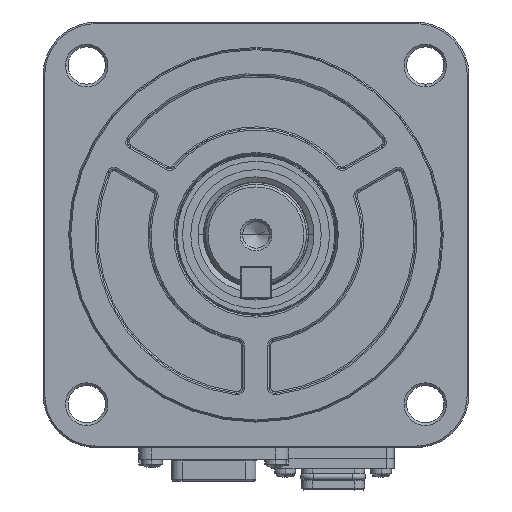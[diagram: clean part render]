
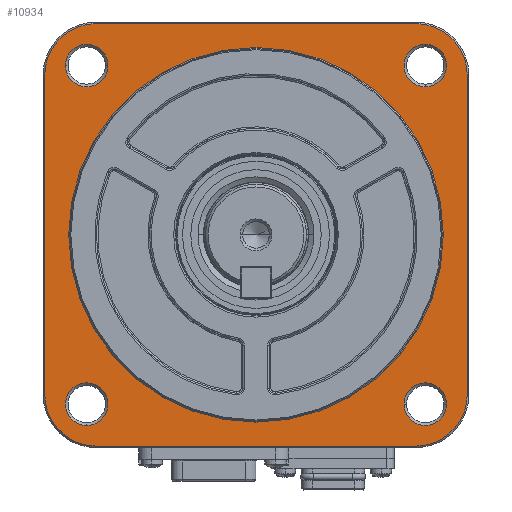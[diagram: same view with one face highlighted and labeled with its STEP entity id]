
A CAD part, left-side view. The second image highlights one B-rep face of the part: STEP entity #10934.
In plain terms, the highlighted planar face has unit normal (-1, 0, 0).
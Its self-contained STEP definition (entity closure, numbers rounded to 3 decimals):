
#1570=CARTESIAN_POINT('',(-1.5,30.,-30.));
#1571=DIRECTION('',(1.,0.,0.));
#1572=DIRECTION('',(0.,0.,-1.));
#1573=AXIS2_PLACEMENT_3D('',#1570,#1571,#1572);
#1575=DIRECTION('',(0.,0.,1.));
#1576=VECTOR('',#1575,60.);
#1577=CARTESIAN_POINT('',(-1.5,39.7,
-30.));
#1578=LINE('',#1577,#1576);
#1579=CARTESIAN_POINT('',(-1.5,30.,30.));
#1580=DIRECTION('',(1.,0.,0.));
#1581=DIRECTION('',(0.,1.,0.));
#1582=AXIS2_PLACEMENT_3D('',#1579,#1580,#1581);
#1584=DIRECTION('',(0.,-1.,0.));
#1585=VECTOR('',#1584,60.);
#1586=CARTESIAN_POINT('',(-1.5,30.,39.7));
#1587=LINE('',#1586,#1585);
#1588=CARTESIAN_POINT('',(-1.5,-30.,30.));
#1589=DIRECTION('',(1.,0.,0.));
#1590=DIRECTION('',(0.,0.,1.));
#1591=AXIS2_PLACEMENT_3D('',#1588,#1589,#1590);
#1593=DIRECTION('',(0.,0.,-1.));
#1594=VECTOR('',#1593,60.);
#1595=CARTESIAN_POINT('',(-1.5,-39.7,
30.));
#1596=LINE('',#1595,#1594);
#1597=CARTESIAN_POINT('',(-1.5,-30.,-30.));
#1598=DIRECTION('',(1.,0.,0.));
#1599=DIRECTION('',(0.,-1.,0.));
#1600=AXIS2_PLACEMENT_3D('',#1597,#1598,#1599);
#1602=DIRECTION('',(0.,1.,0.));
#1603=VECTOR('',#1602,60.);
#1604=CARTESIAN_POINT('',(-1.5,-30.,
-39.7));
#1605=LINE('',#1604,#1603);
#1606=CARTESIAN_POINT('',(-1.5,31.82,-31.82));
#1607=DIRECTION('',(-1.,0.,0.));
#1608=DIRECTION('',(0.,0.,1.));
#1609=AXIS2_PLACEMENT_3D('',#1606,#1607,#1608);
#1611=CARTESIAN_POINT('',(-1.5,31.82,-31.82));
#1612=DIRECTION('',(-1.,0.,0.));
#1613=DIRECTION('',(0.,0.,-1.));
#1614=AXIS2_PLACEMENT_3D('',#1611,#1612,#1613);
#1616=CARTESIAN_POINT('',(-1.5,-31.82,31.82));
#1617=DIRECTION('',(-1.,0.,0.));
#1618=DIRECTION('',(0.,0.,1.));
#1619=AXIS2_PLACEMENT_3D('',#1616,#1617,#1618);
#1621=CARTESIAN_POINT('',(-1.5,-31.82,31.82));
#1622=DIRECTION('',(-1.,0.,0.));
#1623=DIRECTION('',(0.,0.,-1.));
#1624=AXIS2_PLACEMENT_3D('',#1621,#1622,#1623);
#1626=CARTESIAN_POINT('',(-1.5,-31.82,-31.82));
#1627=DIRECTION('',(-1.,0.,0.));
#1628=DIRECTION('',(0.,1.,0.));
#1629=AXIS2_PLACEMENT_3D('',#1626,#1627,#1628);
#1631=CARTESIAN_POINT('',(-1.5,-31.82,-31.82));
#1632=DIRECTION('',(-1.,0.,0.));
#1633=DIRECTION('',(0.,0.,-1.));
#1634=AXIS2_PLACEMENT_3D('',#1631,#1632,#1633);
#1636=CARTESIAN_POINT('',(-1.5,-31.82,-31.82));
#1637=DIRECTION('',(-1.,0.,0.));
#1638=DIRECTION('',(0.,-1.,0.));
#1639=AXIS2_PLACEMENT_3D('',#1636,#1637,#1638);
#1641=CARTESIAN_POINT('',(-1.5,-31.82,-31.82));
#1642=DIRECTION('',(-1.,0.,0.));
#1643=DIRECTION('',(0.,0.,1.));
#1644=AXIS2_PLACEMENT_3D('',#1641,#1642,#1643);
#1646=CARTESIAN_POINT('',(-1.5,0.,0.));
#1647=DIRECTION('',(-1.,0.,0.));
#1648=DIRECTION('',(0.,-1.,0.));
#1649=AXIS2_PLACEMENT_3D('',#1646,#1647,#1648);
#1651=CARTESIAN_POINT('',(-1.5,0.,0.));
#1652=DIRECTION('',(-1.,0.,0.));
#1653=DIRECTION('',(0.,0.,1.));
#1654=AXIS2_PLACEMENT_3D('',#1651,#1652,#1653);
#1656=CARTESIAN_POINT('',(-1.5,0.,0.));
#1657=DIRECTION('',(-1.,0.,0.));
#1658=DIRECTION('',(0.,1.,0.));
#1659=AXIS2_PLACEMENT_3D('',#1656,#1657,#1658);
#1661=CARTESIAN_POINT('',(-1.5,0.,0.));
#1662=DIRECTION('',(-1.,0.,0.));
#1663=DIRECTION('',(0.,0.,-1.));
#1664=AXIS2_PLACEMENT_3D('',#1661,#1662,#1663);
#1666=CARTESIAN_POINT('',(-1.5,31.82,31.82));
#1667=DIRECTION('',(-1.,0.,0.));
#1668=DIRECTION('',(0.,1.,0.));
#1669=AXIS2_PLACEMENT_3D('',#1666,#1667,#1668);
#1671=CARTESIAN_POINT('',(-1.5,31.82,31.82));
#1672=DIRECTION('',(-1.,0.,0.));
#1673=DIRECTION('',(0.,0.,-1.));
#1674=AXIS2_PLACEMENT_3D('',#1671,#1672,#1673);
#1676=CARTESIAN_POINT('',(-1.5,31.82,31.82));
#1677=DIRECTION('',(-1.,0.,0.));
#1678=DIRECTION('',(0.,-1.,0.));
#1679=AXIS2_PLACEMENT_3D('',#1676,#1677,#1678);
#1681=CARTESIAN_POINT('',(-1.5,31.82,31.82));
#1682=DIRECTION('',(-1.,0.,0.));
#1683=DIRECTION('',(0.,0.,1.));
#1684=AXIS2_PLACEMENT_3D('',#1681,#1682,#1683);
#5166=CARTESIAN_POINT('',(-1.5,30.,39.7));
#5167=CARTESIAN_POINT('',(-1.5,-30.,
39.7));
#5168=VERTEX_POINT('',#5166);
#5169=VERTEX_POINT('',#5167);
#5170=CARTESIAN_POINT('',(-1.5,30.,-39.7));
#5171=CARTESIAN_POINT('',(-1.5,39.7,-30.));
#5172=VERTEX_POINT('',#5170);
#5173=VERTEX_POINT('',#5171);
#5174=CARTESIAN_POINT('',(-1.5,39.7,30.));
#5175=VERTEX_POINT('',#5174);
#5176=CARTESIAN_POINT('',(-1.5,-39.7,30.));
#5177=VERTEX_POINT('',#5176);
#5178=CARTESIAN_POINT('',(-1.5,-39.7,
-30.));
#5179=VERTEX_POINT('',#5178);
#5180=CARTESIAN_POINT('',(-1.5,-30.,-39.7));
#5181=VERTEX_POINT('',#5180);
#5182=CARTESIAN_POINT('',(-1.5,31.82,-27.82));
#5183=CARTESIAN_POINT('',(-1.5,31.82,-35.82));
#5184=VERTEX_POINT('',#5182);
#5185=VERTEX_POINT('',#5183);
#5186=CARTESIAN_POINT('',(-1.5,-31.82,35.82));
#5187=CARTESIAN_POINT('',(-1.5,-31.82,27.82));
#5188=VERTEX_POINT('',#5186);
#5189=VERTEX_POINT('',#5187);
#5190=CARTESIAN_POINT('',(-1.5,-31.82,-35.82));
#5191=CARTESIAN_POINT('',(-1.5,-35.82,-31.82));
#5192=VERTEX_POINT('',#5190);
#5193=VERTEX_POINT('',#5191);
#5194=CARTESIAN_POINT('',(-1.5,-27.82,-31.82));
#5195=VERTEX_POINT('',#5194);
#5196=CARTESIAN_POINT('',(-1.5,-31.82,-27.82));
#5197=VERTEX_POINT('',#5196);
#5198=CARTESIAN_POINT('',(-1.5,0.,35.2));
#5199=CARTESIAN_POINT('',(-1.5,35.2,0.));
#5200=VERTEX_POINT('',#5198);
#5201=VERTEX_POINT('',#5199);
#5202=CARTESIAN_POINT('',(-1.5,-35.2,0.));
#5203=VERTEX_POINT('',#5202);
#5204=CARTESIAN_POINT('',(-1.5,0.,-35.2));
#5205=VERTEX_POINT('',#5204);
#5206=CARTESIAN_POINT('',(-1.5,31.82,27.82));
#5207=CARTESIAN_POINT('',(-1.5,27.82,31.82));
#5208=VERTEX_POINT('',#5206);
#5209=VERTEX_POINT('',#5207);
#5210=CARTESIAN_POINT('',(-1.5,35.82,31.82));
#5211=VERTEX_POINT('',#5210);
#5212=CARTESIAN_POINT('',(-1.5,31.82,35.82));
#5213=VERTEX_POINT('',#5212);
#10870=CARTESIAN_POINT('',(-1.5,0.,0.));
#10871=DIRECTION('',(1.,0.,0.));
#10872=DIRECTION('',(0.,-1.,0.));
#10873=AXIS2_PLACEMENT_3D('',#10870,#10871,#10872);
#10874=PLANE('',#10873);
#10876=ORIENTED_EDGE('',*,*,#10875,.T.);
#10878=ORIENTED_EDGE('',*,*,#10877,.T.);
#10880=ORIENTED_EDGE('',*,*,#10879,.T.);
#10882=ORIENTED_EDGE('',*,*,#10881,.T.);
#10884=ORIENTED_EDGE('',*,*,#10883,.T.);
#10886=ORIENTED_EDGE('',*,*,#10885,.T.);
#10888=ORIENTED_EDGE('',*,*,#10887,.T.);
#10889=ORIENTED_EDGE('',*,*,#10860,.T.);
#10890=EDGE_LOOP('',(#10876,#10878,#10880,#10882,#10884,#10886,#10888,#10889));
#10891=FACE_OUTER_BOUND('',#10890,.F.);
#10893=ORIENTED_EDGE('',*,*,#10892,.T.);
#10895=ORIENTED_EDGE('',*,*,#10894,.T.);
#10896=EDGE_LOOP('',(#10893,#10895));
#10897=FACE_BOUND('',#10896,.F.);
#10899=ORIENTED_EDGE('',*,*,#10898,.T.);
#10901=ORIENTED_EDGE('',*,*,#10900,.T.);
#10902=EDGE_LOOP('',(#10899,#10901));
#10903=FACE_BOUND('',#10902,.F.);
#10905=ORIENTED_EDGE('',*,*,#10904,.T.);
#10907=ORIENTED_EDGE('',*,*,#10906,.T.);
#10909=ORIENTED_EDGE('',*,*,#10908,.T.);
#10911=ORIENTED_EDGE('',*,*,#10910,.T.);
#10912=EDGE_LOOP('',(#10905,#10907,#10909,#10911));
#10913=FACE_BOUND('',#10912,.F.);
#10915=ORIENTED_EDGE('',*,*,#10914,.T.);
#10917=ORIENTED_EDGE('',*,*,#10916,.T.);
#10919=ORIENTED_EDGE('',*,*,#10918,.T.);
#10921=ORIENTED_EDGE('',*,*,#10920,.T.);
#10922=EDGE_LOOP('',(#10915,#10917,#10919,#10921));
#10923=FACE_BOUND('',#10922,.F.);
#10925=ORIENTED_EDGE('',*,*,#10924,.T.);
#10927=ORIENTED_EDGE('',*,*,#10926,.T.);
#10929=ORIENTED_EDGE('',*,*,#10928,.T.);
#10931=ORIENTED_EDGE('',*,*,#10930,.T.);
#10932=EDGE_LOOP('',(#10925,#10927,#10929,#10931));
#10933=FACE_BOUND('',#10932,.F.);
#10934=ADVANCED_FACE('',(#10891,#10897,#10903,#10913,#10923,#10933),#10874,.F.);
#1574=CIRCLE('',#1573,9.7);
#1583=CIRCLE('',#1582,9.7);
#1592=CIRCLE('',#1591,9.7);
#1601=CIRCLE('',#1600,9.7);
#1610=CIRCLE('',#1609,4.);
#1615=CIRCLE('',#1614,4.);
#1620=CIRCLE('',#1619,4.);
#1625=CIRCLE('',#1624,4.);
#1630=CIRCLE('',#1629,4.);
#1635=CIRCLE('',#1634,4.);
#1640=CIRCLE('',#1639,4.);
#1645=CIRCLE('',#1644,4.);
#1650=CIRCLE('',#1649,35.2);
#1655=CIRCLE('',#1654,35.2);
#1660=CIRCLE('',#1659,35.2);
#1665=CIRCLE('',#1664,35.2);
#1670=CIRCLE('',#1669,4.);
#1675=CIRCLE('',#1674,4.);
#1680=CIRCLE('',#1679,4.);
#1685=CIRCLE('',#1684,4.);
#10860=EDGE_CURVE('',#5181,#5172,#1605,.T.);
#10875=EDGE_CURVE('',#5172,#5173,#1574,.T.);
#10877=EDGE_CURVE('',#5173,#5175,#1578,.T.);
#10879=EDGE_CURVE('',#5175,#5168,#1583,.T.);
#10881=EDGE_CURVE('',#5168,#5169,#1587,.T.);
#10883=EDGE_CURVE('',#5169,#5177,#1592,.T.);
#10885=EDGE_CURVE('',#5177,#5179,#1596,.T.);
#10887=EDGE_CURVE('',#5179,#5181,#1601,.T.);
#10892=EDGE_CURVE('',#5184,#5185,#1610,.T.);
#10894=EDGE_CURVE('',#5185,#5184,#1615,.T.);
#10898=EDGE_CURVE('',#5188,#5189,#1620,.T.);
#10900=EDGE_CURVE('',#5189,#5188,#1625,.T.);
#10904=EDGE_CURVE('',#5195,#5192,#1630,.T.);
#10906=EDGE_CURVE('',#5192,#5193,#1635,.T.);
#10908=EDGE_CURVE('',#5193,#5197,#1640,.T.);
#10910=EDGE_CURVE('',#5197,#5195,#1645,.T.);
#10914=EDGE_CURVE('',#5203,#5200,#1650,.T.);
#10916=EDGE_CURVE('',#5200,#5201,#1655,.T.);
#10918=EDGE_CURVE('',#5201,#5205,#1660,.T.);
#10920=EDGE_CURVE('',#5205,#5203,#1665,.T.);
#10924=EDGE_CURVE('',#5211,#5208,#1670,.T.);
#10926=EDGE_CURVE('',#5208,#5209,#1675,.T.);
#10928=EDGE_CURVE('',#5209,#5213,#1680,.T.);
#10930=EDGE_CURVE('',#5213,#5211,#1685,.T.);
